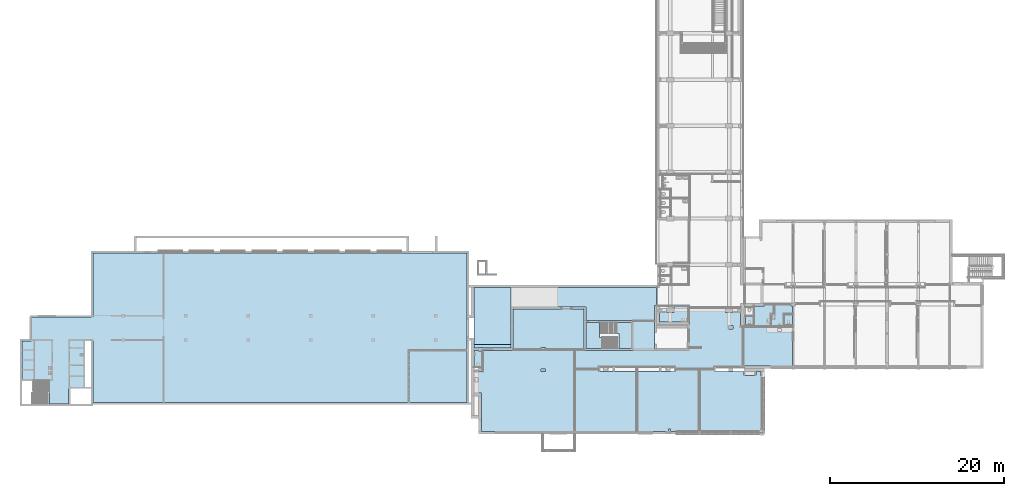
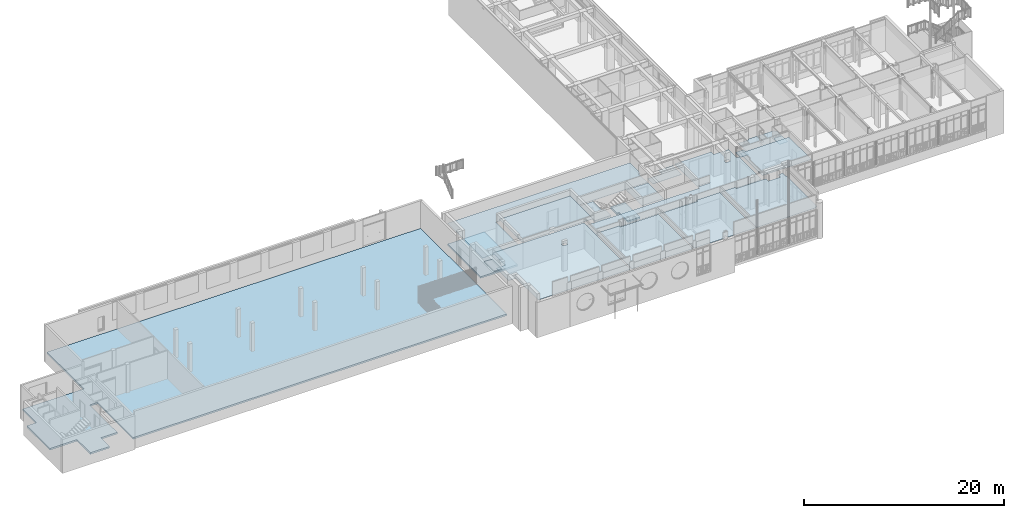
# One storey, part 71 of 135: 19 slabs.
"""IFC2X3 building model written with IfcOpenShell, lengths in millimetres."""

from ifc_helpers import new_model, entity, si_unit, converted_unit, derived_unit, money_unit, direction, frame, origin_with_axes, place, context, subcontext, project, spatial, faceted_brep, material, type_object, element, save


model = new_model("IFC2X3")

# Units and contexts
model_context = context("Model", 3, precision=0.01, world=origin_with_axes(), true_north=direction((0.0, 1.0)))
body_context = subcontext(model_context, "Body", "Model", "MODEL_VIEW")
ifc_project = project(units=[si_unit("LENGTHUNIT", "METRE", prefix="MILLI"), si_unit("AREAUNIT", "SQUARE_METRE"), si_unit("VOLUMEUNIT", "CUBIC_METRE"), converted_unit("PLANEANGLEUNIT", "DEGREE", entity("IfcPlaneAngleMeasure", 0.0174532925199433), si_unit("PLANEANGLEUNIT", "RADIAN"), dimensions=[0, 0, 0, 0, 0, 0, 0]), money_unit("EUR"), converted_unit("TIMEUNIT", "Year", entity("IfcTimeMeasure", 31557600.0), si_unit("TIMEUNIT", "SECOND"), dimensions=[0, 0, 1, 0, 0, 0, 0]), si_unit("MASSUNIT", "GRAM", prefix="KILO"), si_unit("THERMODYNAMICTEMPERATUREUNIT", "DEGREE_CELSIUS"), si_unit("LUMINOUSINTENSITYUNIT", "LUMEN"), si_unit("ENERGYUNIT", "JOULE", prefix="MEGA"), derived_unit("THERMALCONDUCTANCEUNIT", [(si_unit("POWERUNIT", "WATT"), 1), (si_unit("LENGTHUNIT", "METRE"), -1), (si_unit("THERMODYNAMICTEMPERATUREUNIT", "KELVIN"), -1)]), derived_unit("SPECIFICHEATCAPACITYUNIT", [(si_unit("ENERGYUNIT", "JOULE"), 1), (si_unit("MASSUNIT", "GRAM", prefix="KILO"), -1), (si_unit("THERMODYNAMICTEMPERATUREUNIT", "KELVIN"), -1)]), derived_unit("MASSDENSITYUNIT", [(si_unit("MASSUNIT", "GRAM", prefix="KILO"), 1), (si_unit("VOLUMEUNIT", "CUBIC_METRE"), -1)])], contexts=[model_context])

# Site, building, storey
site_placement = place(None, origin_with_axes())
site = spatial("IfcSite", under=ifc_project, at=site_placement, Name="Site", CompositionType="ELEMENT")
building_placement = place(site_placement, origin_with_axes())
building = spatial("IfcBuilding", under=site, at=building_placement, Name="Naam gebouw", CompositionType="ELEMENT")
storey_placement = place(building_placement, origin_with_axes())
storey = spatial("IfcBuildingStorey", under=building, at=storey_placement, Name="Begane grond N", CompositionType="ELEMENT", Elevation=0.0)

# Slabs
ifc_material_1 = material(Name="ALG - CONSTRUCTIEF VLOER")
slab_type_1 = type_object("IfcSlabType", Name="ALG Vloer 200", PredefinedType="NOTDEFINED")
slab_1_placement = place(storey_placement, frame((15940.50051848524, 12994.60803964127, 1384.0), z_axis=(0.0, 0.0, 1.0), x_axis=(1.0, 0.0, 0.0)))
element("IfcSlab", 1, at=slab_1_placement, inside=storey, type_object=slab_type_1, material=ifc_material_1, Name="_Vloer-x", PredefinedType="NOTDEFINED", context=body_context, shape_type="Brep", body=[
    faceted_brep([(0.0, 0.0, 0.0), (0.0, 0.0, -199.9999999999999), (1414.999999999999, 0.0, -199.9999999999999), (1414.999999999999, 0.0, 0.0), (0.0, 1721.312220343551, 0.0), (0.0, 1721.312220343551, -199.9999999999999), (-268.8003214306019, 1721.312220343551, -199.9999999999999), (-268.8003214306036, 3001.31222034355, -199.9999999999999), (1414.999999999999, 3001.31222034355, -199.9999999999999), (1414.999999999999, 3001.31222034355, 0.0), (-268.8003214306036, 3001.31222034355, 0.0), (-268.8003214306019, 1721.312220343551, 0.0)], [[[0, 1, 2, 3]], [[4, 5, 1, 0]], [[2, 1, 5, 6, 7, 8]], [[3, 2, 8, 9]], [[4, 0, 3, 9, 10, 11]], [[11, 6, 5, 4]], [[10, 7, 6, 11]], [[9, 8, 7, 10]]]),
])
slab_2_placement = place(storey_placement, frame((12155.50051848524, 12994.60803964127, 2767.0), z_axis=(0.0, 0.0, 1.0), x_axis=(1.0, 0.0, 0.0)))
element("IfcSlab", 2, at=slab_2_placement, inside=storey, type_object=slab_type_1, material=ifc_material_1, Name="_Vloer-x", PredefinedType="NOTDEFINED", context=body_context, shape_type="Brep", body=[
    faceted_brep([(0.0, 0.0, 0.0), (0.0, 0.0, -200.0000000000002), (1842.245430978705, 0.0, -200.0000000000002), (1842.245430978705, 0.0, 0.0), (0.0, 3001.31222034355, 0.0), (0.0, 3001.31222034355, -200.0000000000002), (1514.999999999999, 3001.31222034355, -200.0000000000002), (1514.999999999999, 1279.999999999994, -200.0000000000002), (1842.245430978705, 1279.999999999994, -200.0000000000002), (1842.245430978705, 1279.999999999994, 0.0), (1514.999999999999, 1279.999999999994, 0.0), (1514.999999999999, 3001.31222034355, 0.0)], [[[0, 1, 2, 3]], [[4, 5, 1, 0]], [[2, 1, 5, 6, 7, 8]], [[3, 2, 8, 9]], [[4, 0, 3, 9, 10, 11]], [[11, 6, 5, 4]], [[10, 7, 6, 11]], [[9, 8, 7, 10]]]),
])
slab_3_placement = place(storey_placement, frame((-44649.99999999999, 6765.575024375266, 0.0), z_axis=(0.0, 0.0, 1.0), x_axis=(1.0, 0.0, 0.0)))
element("IfcSlab", 3, at=slab_3_placement, inside=storey, type_object=slab_type_1, material=ifc_material_1, Name="_Vloer-x", PredefinedType="NOTDEFINED", context=body_context, shape_type="Brep", body=[
    faceted_brep([(0.0, 0.0, 0.0), (0.0, 0.0, -200.0), (43050.0, 0.0, -200.0), (43050.0, 0.0, 0.0), (0.0, 7099.999999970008, 0.0), (0.0, 7099.999999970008, -200.0), (-899.9999999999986, 7099.999999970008, -200.0), (-899.9999999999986, 1599.930118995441, -200.0), (-2799.999999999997, 1599.930118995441, -200.0), (-2799.999999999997, -149.9999999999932, -200.0), (-5013.736795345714, -149.9999999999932, -200.0), (-5013.736795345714, 2505.303990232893, -200.0), (-8149.999999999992, 2505.303990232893, -200.0), (-8149.999999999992, 7099.999999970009, -200.0), (-7049.999999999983, 7099.999999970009, -200.0), (-7049.999999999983, 9825.000000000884, -200.0), (0.0, 9825.000000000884, -200.0), (0.0, 17199.99999999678, -200.0), (43050.0, 17199.99999999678, -200.0), (43050.0, 17199.99999999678, 0.0), (0.0, 17199.99999999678, 0.0), (0.0, 9825.000000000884, 0.0), (-7049.999999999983, 9825.000000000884, 0.0), (-7049.999999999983, 7099.999999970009, 0.0), (-8149.999999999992, 7099.999999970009, 0.0), (-8149.999999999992, 2505.303990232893, 0.0), (-5013.736795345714, 2505.303990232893, 0.0), (-5013.736795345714, -149.9999999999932, 0.0), (-2799.999999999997, -149.9999999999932, 0.0), (-2799.999999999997, 1599.930118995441, 0.0), (-899.9999999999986, 1599.930118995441, 0.0), (-899.9999999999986, 7099.999999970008, 0.0)], [[[0, 1, 2, 3]], [[4, 5, 1, 0]], [[2, 1, 5, 6, 7, 8, 9, 10, 11, 12, 13, 14, 15, 16, 17, 18]], [[3, 2, 18, 19]], [[4, 0, 3, 19, 20, 21, 22, 23, 24, 25, 26, 27, 28, 29, 30, 31]], [[31, 6, 5, 4]], [[30, 7, 6, 31]], [[29, 8, 7, 30]], [[28, 9, 8, 29]], [[27, 10, 9, 28]], [[26, 11, 10, 27]], [[25, 12, 11, 26]], [[24, 13, 12, 25]], [[23, 14, 13, 24]], [[22, 15, 14, 23]], [[21, 16, 15, 22]], [[20, 17, 16, 21]], [[19, 18, 17, 20]]]),
])
slab_type_2 = type_object("IfcSlabType", Name="ALG - CONSTRUCTIEF VLOER 200", PredefinedType="NOTDEFINED")
slab_4_placement = place(storey_placement, frame((-770.0388143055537, 13420.91245226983, 0.0), z_axis=(0.0, 0.0, 1.0), x_axis=(1.0, 0.0, 0.0)))
element("IfcSlab", 4, at=slab_4_placement, inside=storey, type_object=slab_type_2, material=ifc_material_1, Name="_Vloer-x", PredefinedType="NOTDEFINED", context=body_context, shape_type="Brep", body=[
    faceted_brep([(0.0, 0.0, 200.0), (0.0, 0.0, 0.0), (4251.139346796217, 0.0, 0.0), (4251.139346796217, 0.0, 200.0), (0.0, 6594.935614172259, 200.0), (0.0, 6594.935614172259, 0.0), (4251.139346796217, 6594.935614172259, 0.0), (4251.139346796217, 6594.935614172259, 200.0)], [[[0, 1, 2, 3]], [[4, 5, 1, 0]], [[2, 1, 5, 6]], [[3, 2, 6, 7]], [[4, 0, 3, 7]], [[7, 6, 5, 4]]]),
])
ifc_material_2 = material(Name="ALG - BINNENAFWERKING")
slab_type_3 = type_object("IfcSlabType", Name="ALG - BINNENAFWERKING 40", PredefinedType="NOTDEFINED")
slab_5_placement = place(storey_placement, frame((20590.99999999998, 16049.41242510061, 2400.0), z_axis=(0.0, 0.0, 1.0), x_axis=(1.0, 0.0, 0.0)))
element("IfcSlab", 5, at=slab_5_placement, inside=storey, type_object=slab_type_3, material=ifc_material_2, Name="_Vloer-x", PredefinedType="NOTDEFINED", context=body_context, shape_type="Brep", body=[
    faceted_brep([(0.0, 0.0, 40.00000000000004), (0.0, 0.0, 0.0), (3311.999999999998, 0.0, 0.0), (3311.999999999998, 0.0, 40.00000000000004), (0.0, 1053.999999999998, 40.00000000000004), (0.0, 1053.999999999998, 0.0), (1655.000000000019, 1053.999999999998, 0.0), (1655.000000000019, 1775.338801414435, 0.0), (3311.999999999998, 1775.338801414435, 0.0), (3311.999999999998, 1775.338801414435, 40.00000000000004), (1655.000000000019, 1775.338801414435, 40.00000000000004), (1655.000000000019, 1053.999999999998, 40.00000000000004)], [[[0, 1, 2, 3]], [[4, 5, 1, 0]], [[2, 1, 5, 6, 7, 8]], [[3, 2, 8, 9]], [[4, 0, 3, 9, 10, 11]], [[11, 6, 5, 4]], [[10, 7, 6, 11]], [[9, 8, 7, 10]]]),
])
slab_6_placement = place(storey_placement, frame((-770.0388143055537, 13020.91245226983, 2690.0), z_axis=(0.0, 0.0, 1.0), x_axis=(1.0, 0.0, 0.0)))
element("IfcSlab", 6, at=slab_6_placement, inside=storey, type_object=slab_type_3, material=ifc_material_2, Name="_Vloer-x", PredefinedType="NOTDEFINED", context=body_context, shape_type="Brep", body=[
    faceted_brep([(0.0, 0.0, 40.00000000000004), (0.0, 0.0, 0.0), (520.0194190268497, 0.0, 0.0), (520.0194190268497, 0.0, 40.00000000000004), (0.0, 6994.889492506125, 40.00000000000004), (0.0, 6994.889492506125, 0.0), (21030.03881430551, 6994.889492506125, 0.0), (21030.03881430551, 4903.83877424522, 0.0), (20811.03881430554, 4903.83877424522, 0.0), (20811.03881430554, 3175.007807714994, 0.0), (12925.53933279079, 3175.007807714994, 0.0), (12925.53933279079, 4744.935614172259, 0.0), (4251.139346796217, 4744.935614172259, 0.0), (4251.139346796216, -2.380811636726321e-05, 0.0), (1020.038814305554, -2.380811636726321e-05, 0.0), (1020.038814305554, 52.49997283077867, 0.0), (520.0388143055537, 52.49997283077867, 0.0), (520.0388143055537, 52.49997283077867, 40.00000000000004), (1020.038814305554, 52.49997283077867, 40.00000000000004), (1020.038814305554, -2.380811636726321e-05, 40.00000000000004), (4251.139346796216, -2.380811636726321e-05, 40.00000000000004), (4251.139346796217, 4744.935614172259, 40.00000000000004), (12925.53933279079, 4744.935614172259, 40.00000000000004), (12925.53933279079, 3175.007807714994, 40.00000000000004), (20811.03881430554, 3175.007807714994, 40.00000000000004), (20811.03881430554, 4903.83877424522, 40.00000000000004), (21030.03881430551, 4903.83877424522, 40.00000000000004), (21030.03881430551, 6994.889492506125, 40.00000000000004)], [[[0, 1, 2, 3]], [[4, 5, 1, 0]], [[2, 1, 5, 6, 7, 8, 9, 10, 11, 12, 13, 14, 15, 16]], [[3, 2, 16, 17]], [[4, 0, 3, 17, 18, 19, 20, 21, 22, 23, 24, 25, 26, 27]], [[27, 6, 5, 4]], [[26, 7, 6, 27]], [[25, 8, 7, 26]], [[24, 9, 8, 25]], [[23, 10, 9, 24]], [[22, 11, 10, 23]], [[21, 12, 11, 22]], [[20, 13, 12, 21]], [[19, 14, 13, 20]], [[18, 15, 14, 19]], [[17, 16, 15, 18]]]),
])
slab_7_placement = place(storey_placement, frame((17556.50471791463, 12944.60803964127, 2690.0), z_axis=(0.0, 0.0, 1.0), x_axis=(1.0, 0.0, 0.0)))
element("IfcSlab", 7, at=slab_7_placement, inside=storey, type_object=slab_type_3, material=ifc_material_2, Name="_Vloer-x", PredefinedType="NOTDEFINED", context=body_context, shape_type="Brep", body=[
    faceted_brep([(0.0, 0.0, 40.00000000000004), (0.0, 0.0, 0.0), (2484.495282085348, 0.0, 0.0), (2484.495282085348, 0.0, 40.00000000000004), (-1.004199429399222, 3151.312220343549, 40.00000000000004), (-1.004199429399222, 3151.312220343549, 0.0), (2484.495282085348, 3151.312220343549, 0.0), (2484.495282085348, 3151.312220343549, 40.00000000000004)], [[[0, 1, 2, 3]], [[4, 5, 1, 0]], [[2, 1, 5, 6]], [[3, 2, 6, 7]], [[4, 0, 3, 7]], [[7, 6, 5, 4]]]),
])
slab_8_placement = place(storey_placement, frame((3731.100528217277, 12920.91242846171, 3100.0), z_axis=(0.0, 0.0, 1.0), x_axis=(1.0, 0.0, 0.0)))
element("IfcSlab", 8, at=slab_8_placement, inside=storey, type_object=slab_type_3, material=ifc_material_2, Name="_Vloer-x", PredefinedType="NOTDEFINED", context=body_context, shape_type="Brep", body=[
    faceted_brep([(0.0, 0.0, 40.00000000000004), (3198.899471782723, 0.0, 40.00000000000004), (3198.899471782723, 179.9439289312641, 40.00000000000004), (3738.899471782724, 179.9439289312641, 40.00000000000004), (3738.899471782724, 0.0, 40.00000000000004), (8174.39999026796, 0.0, 40.00000000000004), (8174.39999026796, 4594.93566193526, 40.00000000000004), (0.0, 4594.93566193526, 40.00000000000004), (0.0, 0.0, 0.0), (3198.899471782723, 0.0, 0.0), (3198.899471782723, 179.9439289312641, 0.0), (3738.899471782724, 179.9439289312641, 0.0), (3738.899471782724, 0.0, 0.0), (8174.39999026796, 0.0, 0.0), (8174.39999026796, 4594.93566193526, 0.0), (0.0, 4594.93566193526, 0.0)], [[[0, 1, 2, 3, 4, 5, 6, 7]], [[8, 9, 1, 0]], [[10, 2, 1, 9]], [[11, 3, 2, 10]], [[12, 4, 3, 11]], [[5, 4, 12, 13]], [[6, 5, 13, 14]], [[7, 6, 14, 15]], [[0, 7, 15, 8]], [[11, 10, 9, 8, 15, 14, 13, 12]]]),
])
slab_9_placement = place(storey_placement, frame((170.0000050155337, 10823.41242510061, 2400.0), z_axis=(0.0, 0.0, 1.0), x_axis=(1.0, 0.0, 0.0)))
element("IfcSlab", 9, at=slab_9_placement, inside=storey, type_object=slab_type_3, material=ifc_material_2, Name="_Vloer-x", PredefinedType="NOTDEFINED", context=body_context, shape_type="Brep", body=[
    faceted_brep([(0.0, 0.0, 40.00000000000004), (0.0, 0.0, 0.0), (0.0, 1895.000000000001, 0.0), (0.0, 1895.000000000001, 40.00000000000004), (-940.038819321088, 0.0, 40.00000000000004), (-940.038819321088, 0.0, 0.0), (-940.0388193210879, 1947.500027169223, 0.0), (-420.019400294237, 1947.500027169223, 0.0), (-420.0000050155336, 1895.000000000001, 0.0), (-420.0000050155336, 1895.000000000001, 40.00000000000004), (-420.019400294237, 1947.500027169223, 40.00000000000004), (-940.0388193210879, 1947.500027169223, 40.00000000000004)], [[[0, 1, 2, 3]], [[4, 5, 1, 0]], [[2, 1, 5, 6, 7, 8]], [[3, 2, 8, 9]], [[4, 0, 3, 9, 10, 11]], [[11, 6, 5, 4]], [[10, 7, 6, 11]], [[9, 8, 7, 10]]]),
])
slab_10_placement = place(storey_placement, frame((30279.18709933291, 10990.91242510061, 3100.0), z_axis=(0.0, 0.0, 1.0), x_axis=(1.0, 0.0, 0.0)))
element("IfcSlab", 10, at=slab_10_placement, inside=storey, type_object=slab_type_3, material=ifc_material_2, Name="_Vloer-x", PredefinedType="NOTDEFINED", context=body_context, shape_type="Brep", body=[
    faceted_brep([(0.0, 0.0, 40.00000000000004), (0.0, 0.0, 0.0), (5645.812900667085, 0.0, 0.0), (5645.812900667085, 0.0, 40.00000000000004), (0.0, 4450.000000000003, 40.00000000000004), (0.0, 4450.000000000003, 0.0), (5645.812900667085, 4450.000000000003, 0.0), (5645.812900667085, 4450.000000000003, 40.00000000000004)], [[[0, 1, 2, 3]], [[4, 5, 1, 0]], [[2, 1, 5, 6]], [[3, 2, 6, 7]], [[4, 0, 3, 7]], [[7, 6, 5, 4]]]),
])
slab_11_placement = place(storey_placement, frame((18075.0, 3445.668707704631, 3100.0), z_axis=(0.0, 0.0, 1.0), x_axis=(1.0, 0.0, 0.0)))
element("IfcSlab", 11, at=slab_11_placement, inside=storey, type_object=slab_type_3, material=ifc_material_2, Name="_Vloer-x", PredefinedType="NOTDEFINED", context=body_context, shape_type="Brep", body=[
    faceted_brep([(0.0, 0.0, 40.00000000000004), (3544.999999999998, 0.0, 40.00000000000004), (3544.999999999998, 275.0000000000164, 39.99999999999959), (3794.999999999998, 275.0000000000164, 40.00000000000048), (3794.999999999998, 0.0, 40.00000000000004), (7049.999999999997, 0.0, 40.00000000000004), (7049.999999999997, 7110.243717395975, 40.00000000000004), (4340.000000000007, 7110.243717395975, 40.00000000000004), (4340.000000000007, 6885.243717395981, 40.00000000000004), (0.0, 6885.243717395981, 40.00000000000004), (0.0, 0.0, 0.0), (3544.999999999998, 0.0, 0.0), (3544.999999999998, 275.0000000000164, 0.0), (3794.999999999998, 275.0000000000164, 0.0), (3794.999999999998, 0.0, 0.0), (7049.999999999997, 0.0, 0.0), (7049.999999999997, 7110.243717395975, 0.0), (4340.000000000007, 7110.243717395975, 0.0), (4340.000000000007, 6885.243717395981, 0.0), (0.0, 6885.243717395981, 0.0)], [[[0, 1, 2, 3, 4, 5, 6, 7, 8, 9]], [[10, 11, 1, 0]], [[12, 2, 1, 11]], [[13, 3, 2, 12]], [[14, 4, 3, 13]], [[5, 4, 14, 15]], [[6, 5, 15, 16]], [[7, 6, 16, 17]], [[8, 7, 17, 18]], [[9, 8, 18, 19]], [[0, 9, 19, 10]], [[13, 12, 11, 10, 19, 18, 17, 16, 15, 14]]]),
])
slab_12_placement = place(storey_placement, frame((25275.0, 10555.91242510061, 3100.0), z_axis=(0.0, 0.0, 1.0), x_axis=(1.0, 0.0, 0.0)))
element("IfcSlab", 12, at=slab_12_placement, inside=storey, type_object=slab_type_3, material=ifc_material_2, Name="_Vloer-x", PredefinedType="NOTDEFINED", context=body_context, shape_type="Brep", body=[
    faceted_brep([(6935.775713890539, -6961.250057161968, 39.99999999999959), (6979.60474544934, -6937.317595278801, 39.99999999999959), (7026.393605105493, -6919.866252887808, 39.99999999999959), (7070.470260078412, -6910.27796349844, 40.00000000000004), (7070.470260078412, -869.9627352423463, 40.00000000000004), (6980.470260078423, -869.9627352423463, 40.00000000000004), (6980.470260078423, -224.9999999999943, 40.00000000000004), (6408.785778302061, -224.9999999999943, 40.00000000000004), (6408.785778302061, -699.9999999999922, 40.00000000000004), (5054.59867896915, -699.9999999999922, 40.00000000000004), (5054.59867896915, -224.9999999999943, 40.00000000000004), (1624.999999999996, -224.9999999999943, 40.00000000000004), (1624.999999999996, 0.0, 40.00000000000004), (0.0, 0.0, 40.00000000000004), (0.0, -7110.243717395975, 40.00000000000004), (6806.656006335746, -7110.243717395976, 40.00000000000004), (6830.561263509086, -7066.464507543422, 39.99999999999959), (6860.487648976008, -7026.487536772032, 39.99999999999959), (6895.798743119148, -6991.176442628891, 39.99999999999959), (6979.60474544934, -6937.317595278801, 0.0), (6935.775713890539, -6961.250057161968, 0.0), (7026.393605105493, -6919.866252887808, 0.0), (7070.470260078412, -6910.27796349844, 0.0), (7070.470260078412, -869.9627352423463, 0.0), (6980.470260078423, -869.9627352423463, 0.0), (6980.470260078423, -224.9999999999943, 0.0), (6408.785778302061, -224.9999999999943, 0.0), (6408.785778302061, -699.9999999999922, 0.0), (5054.59867896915, -699.9999999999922, 0.0), (5054.59867896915, -224.9999999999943, 0.0), (1624.999999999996, -224.9999999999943, 0.0), (1624.999999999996, 0.0, 0.0), (0.0, 0.0, 0.0), (0.0, -7110.243717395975, 0.0), (6806.656006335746, -7110.243717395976, 0.0), (6830.561263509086, -7066.464507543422, 0.0), (6860.487648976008, -7026.487536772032, 0.0), (6895.798743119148, -6991.176442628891, 0.0)], [[[0, 1, 2, 3, 4, 5, 6, 7, 8, 9, 10, 11, 12, 13, 14, 15, 16, 17, 18]], [[19, 1, 0, 20]], [[21, 2, 1, 19]], [[21, 22, 3, 2]], [[4, 3, 22, 23]], [[24, 5, 4, 23]], [[25, 6, 5, 24]], [[26, 7, 6, 25]], [[27, 8, 7, 26]], [[28, 9, 8, 27]], [[29, 10, 9, 28]], [[30, 11, 10, 29]], [[31, 12, 11, 30]], [[32, 13, 12, 31]], [[33, 14, 13, 32]], [[33, 34, 15, 14]], [[35, 16, 15, 34]], [[36, 17, 16, 35]], [[37, 18, 17, 36]], [[20, 0, 18, 37]], [[36, 35, 34, 33, 32, 31, 30, 29, 28, 27, 26, 25, 24, 23, 22, 21, 19, 20, 37]]]),
])
slab_13_placement = place(storey_placement, frame((10905.50051848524, 12770.91238420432, 2690.0), z_axis=(0.0, 0.0, 1.0), x_axis=(1.0, 0.0, 0.0)))
element("IfcSlab", 13, at=slab_13_placement, inside=storey, type_object=slab_type_3, material=ifc_material_2, Name="_Vloer-x", PredefinedType="NOTDEFINED", context=body_context, shape_type="Brep", body=[
    faceted_brep([(14521.04736789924, 229.9999928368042, 0.0), (14521.04736789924, 330.0000408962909, 0.0), (14521.04736789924, 342.5000408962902, 0.0), (13097.49947346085, 342.5000408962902, 0.0), (13097.49947346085, 4845.788127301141, 0.0), (17290.49934037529, 4845.788127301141, 0.0), (17290.49934037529, 4332.500083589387, 0.0), (19023.68651371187, 4332.500083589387, 0.0), (19023.68651371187, 2670.000154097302, 0.0), (19273.68658084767, 2670.000154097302, 0.0), (19273.68658084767, -1780.000006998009, 0.0), (19023.68651371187, -1780.000006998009, 0.0), (19023.68651371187, -1864.999891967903, 0.0), (15994.49952308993, -1864.999891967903, 0.0), (15994.49952308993, -2114.999959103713, 0.0), (11509.49937557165, -2114.999959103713, 0.0), (11509.49937557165, -1864.999891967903, 0.0), (2679.499600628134, -1864.999891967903, 0.0), (2679.499600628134, -2114.999959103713, 0.0), (0.0, -2114.999959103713, 0.0), (0.0, 0.0, 0.0), (999.9999813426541, 0.0, 0.0), (999.9999813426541, -26.30441432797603, 0.0), (13097.49947346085, -26.30441432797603, 0.0), (13097.49947346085, 229.9999928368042, 0.0), (17644.49948151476, 2837.500040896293, 0.0), (17644.49948151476, 2482.500040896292, 0.0), (18144.49948151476, 2482.500040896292, 0.0), (18144.49948151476, 2837.500040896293, 0.0), (14521.04736789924, 229.9999928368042, 40.00000000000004), (14521.04736789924, 330.0000408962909, 40.00000000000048), (14521.04736789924, 342.5000408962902, 40.00000000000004), (13097.49947346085, 342.5000408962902, 40.00000000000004), (13097.49947346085, 4845.788127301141, 40.00000000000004), (17290.49934037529, 4845.788127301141, 40.00000000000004), (17290.49934037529, 4332.500083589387, 40.00000000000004), (19023.68651371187, 4332.500083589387, 40.00000000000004), (19023.68651371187, 2670.000154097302, 40.00000000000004), (19273.68658084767, 2670.000154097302, 40.00000000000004), (19273.68658084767, -1780.000006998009, 40.00000000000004), (19023.68651371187, -1780.000006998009, 40.00000000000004), (19023.68651371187, -1864.999891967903, 40.00000000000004), (15994.49952308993, -1864.999891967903, 40.00000000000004), (15994.49952308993, -2114.999959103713, 40.00000000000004), (11509.49937557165, -2114.999959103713, 40.00000000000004), (11509.49937557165, -1864.999891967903, 40.00000000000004), (2679.499600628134, -1864.999891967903, 40.00000000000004), (2679.499600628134, -2114.999959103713, 40.00000000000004), (0.0, -2114.999959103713, 40.00000000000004), (0.0, 0.0, 40.00000000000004), (999.9999813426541, 0.0, 40.00000000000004), (999.9999813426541, -26.30441432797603, 40.00000000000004), (13097.49947346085, -26.30441432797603, 40.00000000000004), (13097.49947346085, 229.9999928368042, 40.00000000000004), (17644.49948151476, 2837.500040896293, 40.00000000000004), (17644.49948151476, 2482.500040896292, 40.00000000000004), (18144.49948151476, 2482.500040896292, 40.00000000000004), (18144.49948151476, 2837.500040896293, 40.00000000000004)], [[[0, 1, 2, 3, 4, 5, 6, 7, 8, 9, 10, 11, 12, 13, 14, 15, 16, 17, 18, 19, 20, 21, 22, 23, 24], [25, 26, 27, 28]], [[0, 29, 30, 1]], [[2, 1, 30, 31]], [[3, 2, 31, 32]], [[33, 4, 3, 32]], [[4, 33, 34, 5]], [[5, 34, 35, 6]], [[6, 35, 36, 7]], [[7, 36, 37, 8]], [[8, 37, 38, 9]], [[9, 38, 39, 10]], [[10, 39, 40, 11]], [[11, 40, 41, 12]], [[12, 41, 42, 13]], [[13, 42, 43, 14]], [[14, 43, 44, 15]], [[15, 44, 45, 16]], [[16, 45, 46, 17]], [[17, 46, 47, 18]], [[18, 47, 48, 19]], [[19, 48, 49, 20]], [[20, 49, 50, 21]], [[21, 50, 51, 22]], [[22, 51, 52, 23]], [[23, 52, 53, 24]], [[24, 53, 29, 0]], [[25, 54, 55, 26]], [[26, 55, 56, 27]], [[27, 56, 57, 28]], [[28, 57, 54, 25]], [[33, 32, 31, 30, 29, 53, 52, 51, 50, 49, 48, 47, 46, 45, 44, 43, 42, 41, 40, 39, 38, 37, 36, 35, 34], [56, 55, 54, 57]]]),
])
slab_14_placement = place(storey_placement, frame((10905.50051848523, 3445.733021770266, 3100.0), z_axis=(0.0, 0.0, 1.0), x_axis=(1.0, 0.0, 0.0)))
element("IfcSlab", 14, at=slab_14_placement, inside=storey, type_object=slab_type_3, material=ifc_material_2, Name="_Vloer-x", PredefinedType="NOTDEFINED", context=body_context, shape_type="Brep", body=[
    faceted_brep([(7019.499481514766, -0.06431406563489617, 0.0), (7019.499481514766, -0.06431406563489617, 40.00000000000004), (0.0, 0.0, 40.00000000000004), (0.0, 0.0, 0.0), (7019.499481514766, 6885.179403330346, 0.0), (7019.499481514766, 6885.179403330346, 40.00000000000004), (2679.49948151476, 6885.179403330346, 40.00000000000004), (2679.49948151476, 7110.17940333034, 40.00000000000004), (0.0, 7110.17940333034, 40.00000000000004), (0.0, 7110.17940333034, 0.0), (2679.49948151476, 6885.179403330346, 0.0), (2679.49948151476, 7110.17940333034, 0.0)], [[[0, 1, 2, 3]], [[4, 5, 1, 0]], [[6, 7, 8, 2, 1, 5]], [[3, 2, 8, 9]], [[10, 4, 0, 3, 9, 11]], [[10, 6, 5, 4]], [[11, 7, 6, 10]], [[9, 8, 7, 11]]]),
])
slab_15_placement = place(storey_placement, frame((33483.11817762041, 15540.91242510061, 2400.0), z_axis=(0.0, 0.0, 1.0), x_axis=(1.0, 0.0, 0.0)))
element("IfcSlab", 15, at=slab_15_placement, inside=storey, type_object=slab_type_3, material=ifc_material_2, Name="_Vloer-x", PredefinedType="NOTDEFINED", context=body_context, shape_type="Brep", body=[
    faceted_brep([(0.0, 0.0, 40.00000000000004), (0.0, 0.0, 0.0), (1391.881822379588, 0.0, 0.0), (1391.881822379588, 0.0, 40.00000000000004), (0.0, 1350.000000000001, 40.00000000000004), (0.0, 1350.000000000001, 0.0), (366.0689217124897, 1350.000000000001, 0.0), (366.0689217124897, 2509.999999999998, 0.0), (2246.881822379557, 2509.999999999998, 0.0), (2246.881822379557, 2329.999999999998, 0.0), (2441.881826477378, 2329.999999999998, 0.0), (2441.881826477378, 1450.000000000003, 0.0), (1391.881822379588, 1450.000000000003, 0.0), (1391.881822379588, 1450.000000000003, 40.00000000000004), (2441.881826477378, 1450.000000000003, 40.00000000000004), (2441.881826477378, 2329.999999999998, 40.00000000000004), (2246.881822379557, 2329.999999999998, 40.00000000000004), (2246.881822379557, 2509.999999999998, 40.00000000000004), (366.0689217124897, 2509.999999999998, 40.00000000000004), (366.0689217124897, 1350.000000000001, 40.00000000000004)], [[[0, 1, 2, 3]], [[4, 5, 1, 0]], [[2, 1, 5, 6, 7, 8, 9, 10, 11, 12]], [[3, 2, 12, 13]], [[4, 0, 3, 13, 14, 15, 16, 17, 18, 19]], [[19, 6, 5, 4]], [[18, 7, 6, 19]], [[17, 8, 7, 18]], [[16, 9, 8, 17]], [[15, 10, 9, 16]], [[14, 11, 10, 15]], [[13, 12, 11, 14]]]),
])
slab_16_placement = place(storey_placement, frame((-770.0388143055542, 10318.41242979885, 3100.0), z_axis=(0.0, 0.0, 1.0), x_axis=(1.0, 0.0, 0.0)))
element("IfcSlab", 16, at=slab_16_placement, inside=storey, type_object=slab_type_3, material=ifc_material_2, Name="_Vloer-x", PredefinedType="NOTDEFINED", context=body_context, shape_type="Brep", body=[
    faceted_brep([(870.0388664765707, -2482.632512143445, 0.0), (0.0, -2482.632512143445, 0.0), (0.0, 0.0, 0.0), (1040.038888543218, 0.0, 0.0), (1040.038888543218, 2452.500012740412, 0.0), (11525.53933279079, 2452.500012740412, 0.0), (11525.53933279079, -6872.518276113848, 0.0), (870.0388664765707, -6872.518276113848, 0.0), (7700.038814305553, 332.4999953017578, 0.0), (7700.038814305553, 22.49999530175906, 0.0), (8240.038814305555, 22.49999530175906, 0.0), (8240.038814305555, 332.4999953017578, 0.0), (870.0388664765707, -2482.632512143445, 40.00000000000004), (0.0, -2482.632512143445, 40.00000000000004), (0.0, 0.0, 40.00000000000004), (1040.038888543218, 0.0, 40.00000000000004), (1040.038888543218, 2452.500012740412, 40.00000000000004), (11525.53933279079, 2452.500012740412, 40.00000000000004), (11525.53933279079, -6872.518276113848, 40.00000000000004), (870.0388664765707, -6872.518276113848, 40.00000000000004), (7700.038814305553, 332.4999953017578, 40.00000000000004), (7700.038814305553, 22.49999530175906, 40.00000000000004), (8240.038814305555, 22.49999530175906, 40.00000000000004), (8240.038814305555, 332.4999953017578, 40.00000000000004)], [[[0, 1, 2, 3, 4, 5, 6, 7], [8, 9, 10, 11]], [[12, 13, 1, 0]], [[13, 14, 2, 1]], [[14, 15, 3, 2]], [[15, 16, 4, 3]], [[16, 17, 5, 4]], [[17, 18, 6, 5]], [[18, 19, 7, 6]], [[19, 12, 0, 7]], [[8, 20, 21, 9]], [[9, 21, 22, 10]], [[10, 22, 23, 11]], [[11, 23, 20, 8]], [[15, 14, 13, 12, 19, 18, 17, 16], [22, 21, 20, 23]]]),
])
slab_17_placement = place(storey_placement, frame((31529.18709933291, 15540.91242510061, 2400.0), z_axis=(0.0, 0.0, 1.0), x_axis=(1.0, 0.0, 0.0)))
element("IfcSlab", 17, at=slab_17_placement, inside=storey, type_object=slab_type_3, material=ifc_material_2, Name="_Vloer-x", PredefinedType="NOTDEFINED", context=body_context, shape_type="Brep", body=[
    faceted_brep([(0.0, 0.0, 40.00000000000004), (0.0, 0.0, 0.0), (1853.931081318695, 0.0, 0.0), (1853.931081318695, 0.0, 40.00000000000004), (0.0, 2360.000002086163, 40.00000000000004), (0.0, 2360.000002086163, 0.0), (1169.999999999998, 2360.000002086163, 0.0), (1169.999999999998, 2509.999999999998, 0.0), (2220.000014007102, 2509.999999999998, 0.0), (2220.000014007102, 1450.000004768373, 0.0), (1853.931081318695, 1450.000004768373, 0.0), (1853.931081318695, 1450.000004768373, 40.00000000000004), (2220.000014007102, 1450.000004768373, 40.00000000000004), (2220.000014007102, 2509.999999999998, 40.00000000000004), (1169.999999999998, 2509.999999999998, 40.00000000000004), (1169.999999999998, 2360.000002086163, 40.00000000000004)], [[[0, 1, 2, 3]], [[4, 5, 1, 0]], [[2, 1, 5, 6, 7, 8, 9, 10]], [[3, 2, 10, 11]], [[4, 0, 3, 11, 12, 13, 14, 15]], [[15, 6, 5, 4]], [[14, 7, 6, 15]], [[13, 8, 7, 14]], [[12, 9, 8, 13]], [[11, 10, 9, 12]]]),
])
slab_18_placement = place(storey_placement, frame((30479.18709438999, 15690.91242510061, 2400.0), z_axis=(0.0, 0.0, 1.0), x_axis=(1.0, 0.0, 0.0)))
element("IfcSlab", 18, at=slab_18_placement, inside=storey, type_object=slab_type_3, material=ifc_material_2, Name="_Vloer-x", PredefinedType="NOTDEFINED", context=body_context, shape_type="Brep", body=[
    faceted_brep([(0.0, 0.0, 40.00000000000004), (0.0, 0.0, 0.0), (950.0000002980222, 0.0, 0.0), (950.0000002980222, 0.0, 40.00000000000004), (0.0, 979.9999999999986, 40.00000000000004), (0.0, 979.9999999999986, 0.0), (950.0000002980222, 979.9999999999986, 0.0), (950.0000002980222, 979.9999999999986, 40.00000000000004)], [[[0, 1, 2, 3]], [[4, 5, 1, 0]], [[2, 1, 5, 6]], [[3, 2, 6, 7]], [[4, 0, 3, 7]], [[7, 6, 5, 4]]]),
])
slab_19_placement = place(storey_placement, frame((34975.00000000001, 15690.91242510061, 2400.0), z_axis=(0.0, 0.0, 1.0), x_axis=(1.0, 0.0, 0.0)))
element("IfcSlab", 19, at=slab_19_placement, inside=storey, type_object=slab_type_3, material=ifc_material_2, Name="_Vloer-x", PredefinedType="NOTDEFINED", context=body_context, shape_type="Brep", body=[
    faceted_brep([(949.9999999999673, 0.0, 0.0), (949.9999999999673, 1200.000000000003, 0.0), (949.9999999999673, 1200.000000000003, 40.00000000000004), (949.9999999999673, 0.0, 40.00000000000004), (0.0, 0.0, 0.0), (0.0, 1200.000000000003, 0.0), (0.0, 1200.000000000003, 40.00000000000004), (0.0, 0.0, 40.00000000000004)], [[[0, 1, 2, 3]], [[4, 5, 1, 0]], [[5, 6, 2, 1]], [[3, 2, 6, 7]], [[3, 7, 4, 0]], [[7, 6, 5, 4]]]),
])

save(model, "model.ifc")
